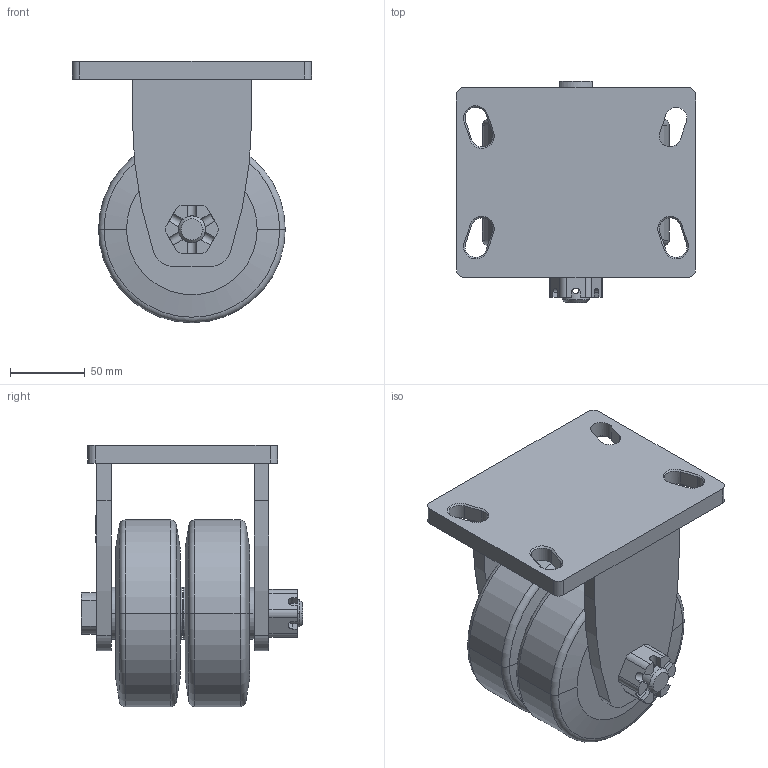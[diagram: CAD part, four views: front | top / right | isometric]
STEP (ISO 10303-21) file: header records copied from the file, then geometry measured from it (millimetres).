
FILE_DESCRIPTION(/* description */ (''),/* implementation_level */ '2;1');
FILE_NAME(/* name */ '40B33_5_F.stp',/* time_stamp */ '2022-08-29T11:08:21+08:00',/* author */ (''),/* organization */ (''),/* preprocessor_version */ 'ST-DEVELOPER v14',/* originating_system */ 'SIEMENS PLM Software NX 8.0',/* authorisation */ '');
FILE_SCHEMA (('AUTOMOTIVE_DESIGN { 1 0 10303 214 3 1 1 1 }'));
Length unit declared in the file: millimetre
Products named in the file (1): 40B33_5_F
Bounding box: 160 x 148 x 175 mm (x, y, z)
Volume: 1425076.5 mm3; surface area: 179875.8 mm2
Topology: 1 solids, 1 shells, 362 faces, 996 edges, 665 vertices
Faces by surface type: plane 239, cylinder 91, cone 24, torus 8
Entity records: 12096 total; most frequent: CARTESIAN_POINT 3062, ORIENTED_EDGE 1992, DIRECTION 1725, EDGE_CURVE 996, VERTEX_POINT 665, AXIS2_PLACEMENT_3D 623, LINE 479, VECTOR 479
